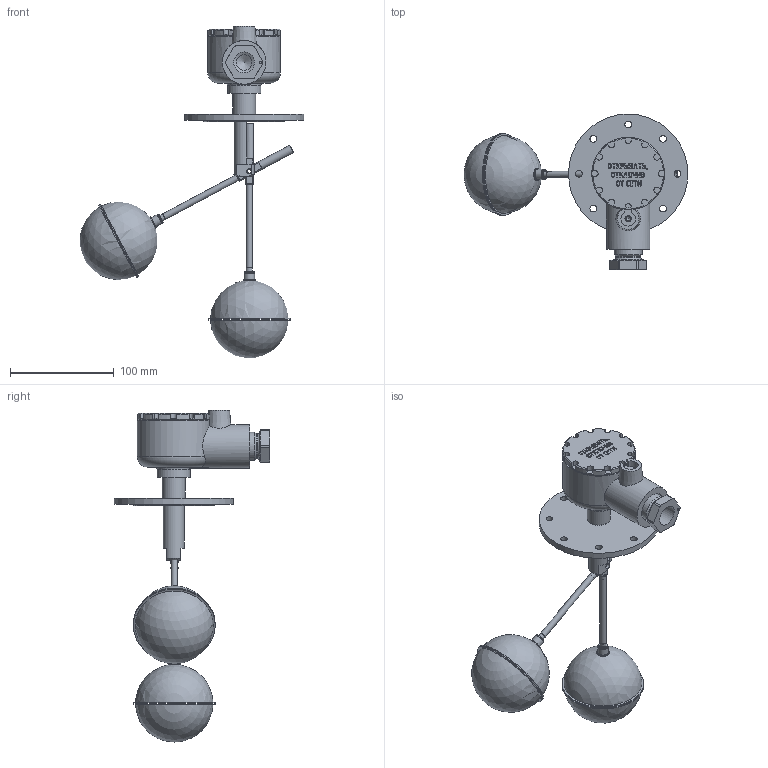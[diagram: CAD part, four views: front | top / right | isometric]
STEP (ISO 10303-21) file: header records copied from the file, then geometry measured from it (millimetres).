
FILE_DESCRIPTION(/* description */ (''),/* implementation_level */ '2;1');
FILE_NAME(/* name */ 'D:\Модели для сайта\РУГ-1-Ех-Вн-Г-46,-47.stp',/* time_stamp */ '2018-07-06T14:11:22+03:00',/* author */ ('hudyakovak'),/* organization */ (''),/* preprocessor_version */ 'ST-DEVELOPER v16.1',/* originating_system */ 'Autodesk Inventor 2016',/* authorisation */ '');
FILE_SCHEMA (('AUTOMOTIVE_DESIGN { 1 0 10303 214 3 1 1 }'));
Length unit declared in the file: millimetre
Products named in the file (1): Деталь9
Bounding box: 215.5 x 150.21 x 319.75 mm (x, y, z)
Surface area: 144926.1 mm2 (no closed solid volume)
Topology: 0 solids, 13 shells, 654 faces, 1660 edges, 1097 vertices
Faces by surface type: plane 318, bspline 197, cylinder 91, cone 36, torus 6, sphere 6
Full cylindrical faces by diameter (mm): 2 x1, 4 x6, 4.134 x2, 5 x2, 5.8 x4, 6 x2, 6.1 x2, 6.5 x8, 8 x2, 9 x2, 10 x2, 12 x2, 15 x1, 16 x1, 17.294 x1, 20 x1, 20.5 x1, 21 x1, 22 x1, 24 x2, 24.835 x1, 27 x1, 32 x1, 42 x1, 47 x1, 53.8 x1, 56 x1, 70 x1, 79 x4, 115 x1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
Entity records: 20231 total; most frequent: CARTESIAN_POINT 5981, ORIENTED_EDGE 3128, DIRECTION 2280, EDGE_CURVE 1564, VERTEX_POINT 1084, LINE 860, VECTOR 860, EDGE_LOOP 836
